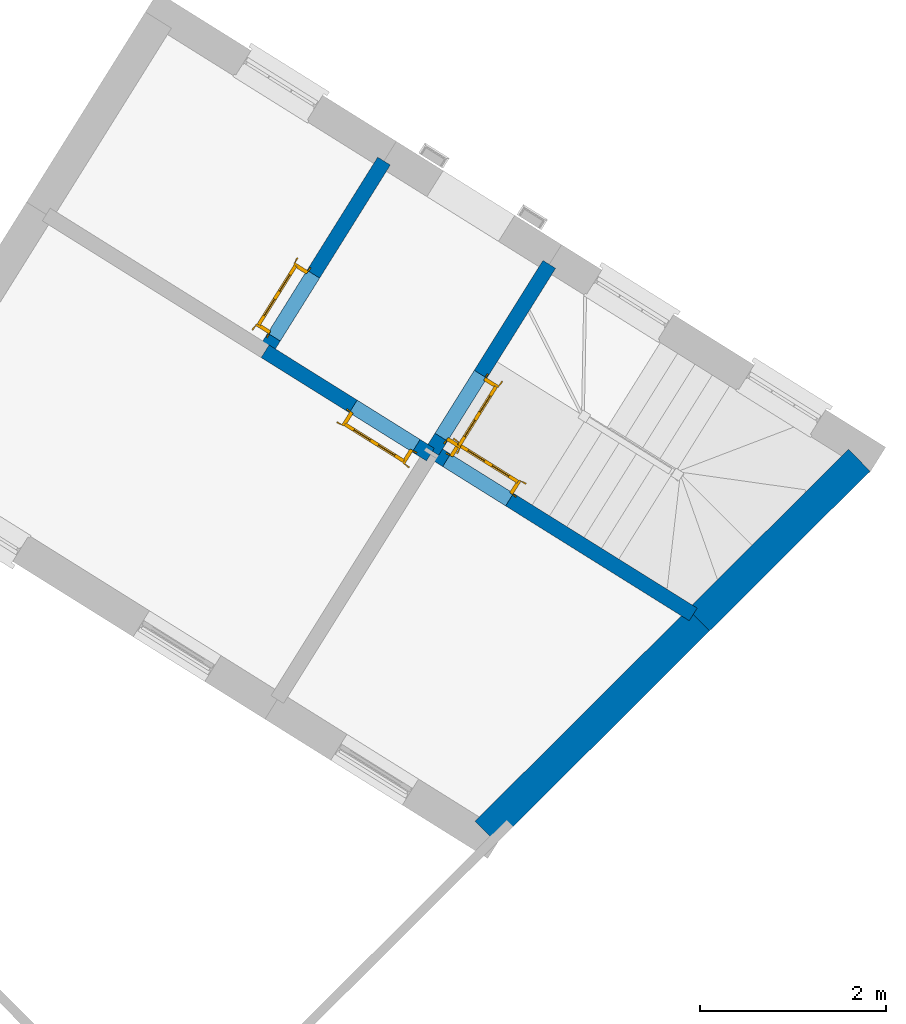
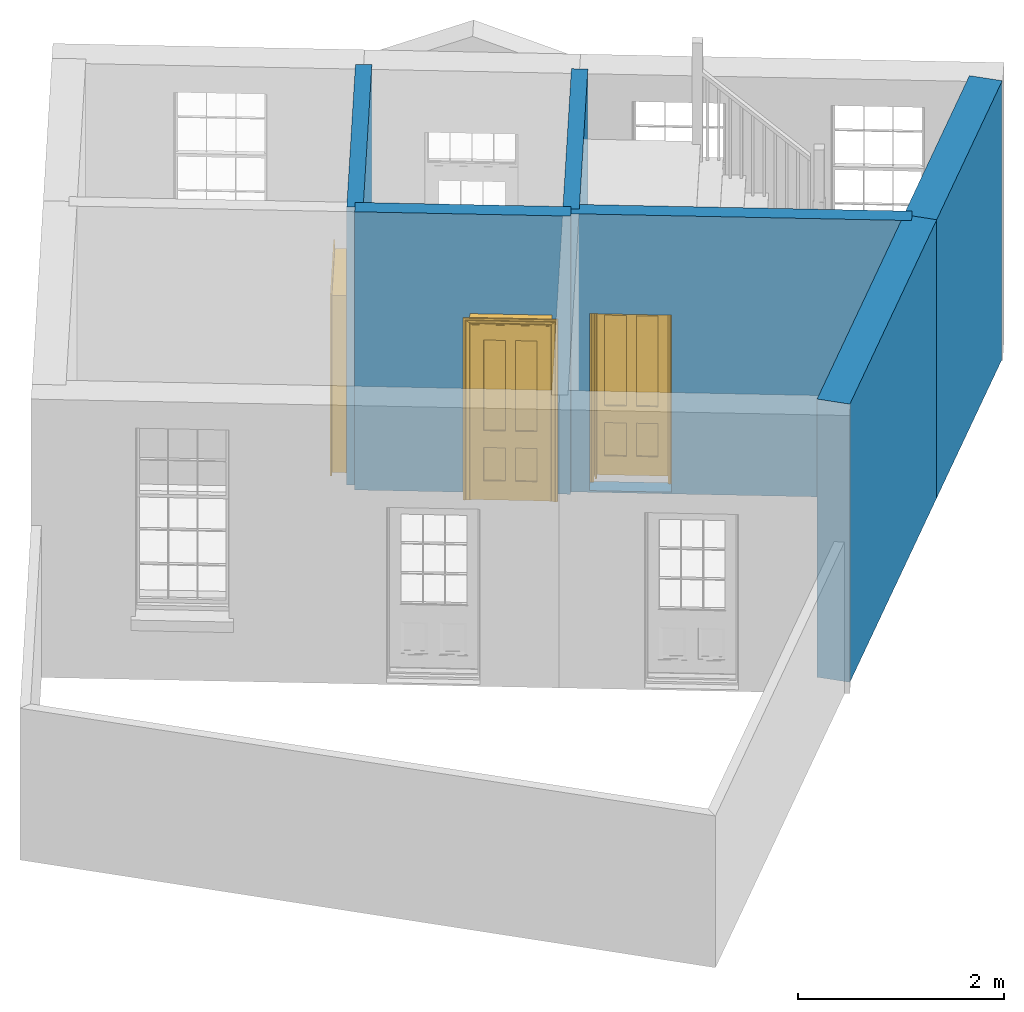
# One storey, part 3 of 5: 6 walls, 4 doors, 4 openings.
"""IFC4 building model written with IfcOpenShell, lengths in metres."""

import ifcopenshell
import ifcopenshell.guid

model = None  # the IFC model being written
_history = None  # IfcOwnerHistory: only IFC2X3 demands one
_inside = {}  # id of a spatial element -> (the spatial element, [elements in it])
_under = {}  # id of a project, library or spatial element -> (it, [spatial elements below it])
_declared = {}  # id of a project -> (the project, [libraries it declares])
_typed = {}  # id of a type object -> (the type object, [elements of that type])
_made_of = {}  # id of a material, layer set ... -> (it, [elements and type objects made of it])


def new_model(schema):
    """Start an empty IFC model of exactly this schema.

    Asked for "IFC4X3", IfcOpenShell would pick the latest addendum, in which some entities
    have other attributes; the version numbers below select the first issue.
    IFC2X3 requires an IfcOwnerHistory on every rooted entity: one is made here for all.
    """
    global model, _history
    if schema == "IFC4X3":
        model = ifcopenshell.file(schema_version=(4, 3, 0, 0))
    else:
        model = ifcopenshell.file(schema=schema)
    _inside.clear()
    _under.clear()
    _declared.clear()
    _typed.clear()
    _made_of.clear()
    _history = None
    if model.schema == "IFC2X3":
        org = make("IfcOrganization", Name="unknown")
        user = make(
            "IfcPersonAndOrganization",
            ThePerson=make("IfcPerson", FamilyName="unknown"),
            TheOrganization=org,
        )
        app = make(
            "IfcApplication",
            ApplicationDeveloper=org,
            Version="unknown",
            ApplicationFullName="unknown",
            ApplicationIdentifier="unknown",
        )
        _history = make(
            "IfcOwnerHistory",
            OwningUser=user,
            OwningApplication=app,
            ChangeAction="ADDED",
            CreationDate=0,
        )
    return model


def make(cls, **values):
    """One entity of the class cls with the attributes given. An attribute that is None is left unset."""
    return model.create_entity(
        cls, **{name: value for name, value in values.items() if value is not None}
    )


def rooted(cls, **values):
    """An entity with a GlobalId (a new one), such as an element, a storey or a relation."""
    return make(cls, GlobalId=ifcopenshell.guid.new(), OwnerHistory=_history, **values)


def si_unit(unit_type, name, prefix=None):
    """IfcSIUnit, for example si_unit("LENGTHUNIT", "METRE", prefix="MILLI")."""
    return make("IfcSIUnit", UnitType=unit_type, Prefix=prefix, Name=name)


def assignment(units):
    """IfcUnitAssignment: the units of a project."""
    return None if units is None else make("IfcUnitAssignment", Units=units)


def point(xyz):
    """IfcCartesianPoint."""
    return None if xyz is None else make("IfcCartesianPoint", Coordinates=xyz)


def direction(xyz):
    """IfcDirection."""
    return None if xyz is None else make("IfcDirection", DirectionRatios=xyz)


def frame(location, z_axis=None, x_axis=None):
    """IfcAxis2Placement3D, a coordinate frame: its origin and axes. An axis left out is left unset."""
    return make(
        "IfcAxis2Placement3D",
        Location=point(location),
        Axis=direction(z_axis),
        RefDirection=direction(x_axis),
    )


def origin():
    """The frame at (0, 0, 0) with its axes left unset."""
    return frame((0.0, 0.0, 0.0))


def origin_with_axes():
    """The frame at (0, 0, 0) with the z axis (0, 0, 1) and the x axis (1, 0, 0) written out."""
    return frame((0.0, 0.0, 0.0), z_axis=(0.0, 0.0, 1.0), x_axis=(1.0, 0.0, 0.0))


def place(relative_to, where):
    """IfcLocalPlacement: puts the frame where relative to a parent placement (None: the world)."""
    return make(
        "IfcLocalPlacement", PlacementRelTo=relative_to, RelativePlacement=where
    )


def context(
    kind, dimensions, precision=None, world=None, true_north=None, identifier=None
):
    """IfcGeometricRepresentationContext, for example the 3D "Model" context."""
    return make(
        "IfcGeometricRepresentationContext",
        ContextIdentifier=identifier,
        ContextType=kind,
        CoordinateSpaceDimension=dimensions,
        Precision=precision,
        WorldCoordinateSystem=world,
        TrueNorth=true_north,
    )


def subcontext(parent, identifier, kind, view, scale=None):
    """IfcGeometricRepresentationSubContext, for example "Body" below "Model"."""
    return make(
        "IfcGeometricRepresentationSubContext",
        ContextIdentifier=identifier,
        ContextType=kind,
        ParentContext=parent,
        TargetScale=scale,
        TargetView=view,
    )


def project(units=None, contexts=None):
    """IfcProject with its units and contexts."""
    return rooted(
        "IfcProject",
        Name="project",
        RepresentationContexts=contexts,
        UnitsInContext=assignment(units),
    )


def spatial(cls, under=None, at=None, **own):
    """A site, building, storey or space (cls), placed at a placement, below another one or the project."""
    s = rooted(cls, ObjectPlacement=at, **own)
    if under is not None:
        _under.setdefault(under.id(), (under, []))[1].append(s)
    return s


def polyline(points):
    """IfcPolyline through the points."""
    return make("IfcPolyline", Points=[point(p) for p in points])


def outline(outer, holes=None, kind="AREA"):
    """IfcArbitraryClosedProfileDef: a profile drawn as a closed curve; with holes, ...WithVoids."""
    if holes is None:
        return make("IfcArbitraryClosedProfileDef", ProfileType=kind, OuterCurve=outer)
    return make(
        "IfcArbitraryProfileDefWithVoids",
        ProfileType=kind,
        OuterCurve=outer,
        InnerCurves=holes,
    )


def extrude(swept, where, along, depth):
    """IfcExtrudedAreaSolid: the profile swept, set in the frame where, extruded along a direction by depth."""
    return make(
        "IfcExtrudedAreaSolid",
        SweptArea=swept,
        Position=where,
        ExtrudedDirection=direction(along),
        Depth=depth,
    )


def faces_of(points, faces, orient=None, outer=None):
    """IfcFace entities. A face is a list of loops; a loop is a list of indices into points, from 0.

    orient and outer hold one flag for each loop. By default every Orientation is true, the
    first loop of a face is its IfcFaceOuterBound and the others are IfcFaceBound.
    """
    made = []
    for i, loops in enumerate(faces):
        bounds = []
        for j, loop in enumerate(loops):
            is_outer = j == 0 if outer is None else outer[i][j]
            bounds.append(
                make(
                    "IfcFaceOuterBound" if is_outer else "IfcFaceBound",
                    Bound=make("IfcPolyLoop", Polygon=[points[k] for k in loop]),
                    Orientation=True if orient is None else orient[i][j],
                )
            )
        made.append(make("IfcFace", Bounds=bounds))
    return made


def faceted_brep(points, faces, orient=None, outer=None, voids=None):
    """IfcFacetedBrep: a solid bounded by flat faces; with voids (closed shells), ...WithVoids."""
    shared = [point(p) for p in points]
    hull = make("IfcClosedShell", CfsFaces=faces_of(shared, faces, orient, outer))
    if voids is None:
        return make("IfcFacetedBrep", Outer=hull)
    return make(
        "IfcFacetedBrepWithVoids",
        Outer=hull,
        Voids=[
            make(cls, CfsFaces=faces_of(shared, fs, o, b)) for cls, fs, o, b in voids
        ],
    )


def shape(context_of_items, identifier, shape_type, items):
    """IfcShapeRepresentation: the items that make up one representation, for example the "Body"."""
    return make(
        "IfcShapeRepresentation",
        ContextOfItems=context_of_items,
        RepresentationIdentifier=identifier,
        RepresentationType=shape_type,
        Items=items,
    )


def source(mapping_origin, context_of_items, identifier, shape_type, items):
    """IfcRepresentationMap: a shape defined once, which mapped items show again and again."""
    return make(
        "IfcRepresentationMap",
        MappingOrigin=mapping_origin,
        MappedRepresentation=shape(context_of_items, identifier, shape_type, items),
    )


def transform(
    local_origin,
    x_axis=None,
    y_axis=None,
    z_axis=None,
    scale=None,
    scale2=None,
    scale3=None,
    uniform=True,
):
    """IfcCartesianTransformationOperator3D, or its non-uniform kind. x_axis, y_axis, z_axis: its Axis1, 2, 3."""
    if uniform:
        return make(
            "IfcCartesianTransformationOperator3D",
            Axis1=direction(x_axis),
            Axis2=direction(y_axis),
            LocalOrigin=point(local_origin),
            Scale=scale,
            Axis3=direction(z_axis),
        )
    return make(
        "IfcCartesianTransformationOperator3DnonUniform",
        Axis1=direction(x_axis),
        Axis2=direction(y_axis),
        LocalOrigin=point(local_origin),
        Scale=scale,
        Axis3=direction(z_axis),
        Scale2=scale2,
        Scale3=scale3,
    )


def mapped(mapping_source, mapping_target):
    """IfcMappedItem: shows the shape of a source again, moved by a transform."""
    return make(
        "IfcMappedItem", MappingSource=mapping_source, MappingTarget=mapping_target
    )


def material(Name=None, Category=None):
    """IfcMaterial."""
    return make("IfcMaterial", Name=Name, Category=Category)


def layer(
    of_material, thickness, ventilated=None, Name=None, Category=None, Priority=None
):
    """IfcMaterialLayer: one layer of a wall or slab, of a material (None: an air gap)."""
    return make(
        "IfcMaterialLayer",
        Material=of_material,
        LayerThickness=thickness,
        IsVentilated=ventilated,
        Name=Name,
        Category=Category,
        Priority=Priority,
    )


def layer_set(layers, Name=None):
    """IfcMaterialLayerSet."""
    return make("IfcMaterialLayerSet", MaterialLayers=layers, LayerSetName=Name)


def layer_usage(for_layer_set, set_direction, sense, offset, extent=None):
    """IfcMaterialLayerSetUsage: how a layer set lies in its element."""
    return make(
        "IfcMaterialLayerSetUsage",
        ForLayerSet=for_layer_set,
        LayerSetDirection=set_direction,
        DirectionSense=sense,
        OffsetFromReferenceLine=offset,
        ReferenceExtent=extent,
    )


def made_of(thing, what):
    """Note that an element or type object is made of a material, layer set ...; save() writes the relation."""
    if what is not None:
        _made_of.setdefault(what.id(), (what, []))[1].append(thing)
    return thing


def type_object(cls, material=None, **own):
    """A type object (cls), such as IfcWallType, which elements share."""
    return made_of(rooted(cls, **own), material)


def type_shapes(of_type, sources):
    """Give a type object the sources (RepresentationMaps) that its elements show as mapped items."""
    of_type.RepresentationMaps = sources


def element(
    cls,
    number,
    at=None,
    inside=None,
    cuts=None,
    type_object=None,
    material=None,
    context=None,
    identifier="Body",
    shape_type=None,
    held_by="IfcProductDefinitionShape",
    body=None,
    shapes=None,
    **own,
):
    """One element of the class cls, such as IfcWall. Its Tag is "e" and its number.

    at: its placement. inside: the storey or other place that contains it. cuts: it is an
    opening in that element (IfcRelVoidsElement). A single representation is given by context,
    identifier, shape_type and body (its items); several are given by shapes. held_by: the class
    of the entity that holds the representations. save() writes the other relations.
    """
    e = rooted(cls, Tag="e%d" % number, ObjectPlacement=at, **own)
    if body is not None:
        shapes = [shape(context, identifier, shape_type, body)]
    if shapes is not None:
        e.Representation = make(held_by, Representations=shapes)
    if inside is not None:
        _inside.setdefault(inside.id(), (inside, []))[1].append(e)
    if cuts is not None:
        rooted(
            "IfcRelVoidsElement", RelatingBuildingElement=cuts, RelatedOpeningElement=e
        )
    if type_object is not None:
        _typed.setdefault(type_object.id(), (type_object, []))[1].append(e)
    return made_of(e, material)


def fill(opening, filler):
    """IfcRelFillsElement: the door or window that sits in an opening."""
    return rooted(
        "IfcRelFillsElement",
        RelatingOpeningElement=opening,
        RelatedBuildingElement=filler,
    )


def aggregate(whole, parts):
    """IfcRelAggregates: a whole, such as a stair, and the parts it consists of."""
    return rooted("IfcRelAggregates", RelatingObject=whole, RelatedObjects=parts)


def save(model, path):
    """Write the relations noted so far, then the file.

    IfcRelAggregates (storeys below a building ...), IfcRelContainedInSpatialStructure (elements
    in a storey), IfcRelDefinesByType, IfcRelAssociatesMaterial and IfcRelDeclares: one each for
    every whole, place, type object, material and project.
    """
    for whole, parts in _under.values():
        aggregate(whole, parts)
    for where, things in _inside.values():
        rooted(
            "IfcRelContainedInSpatialStructure",
            RelatedElements=things,
            RelatingStructure=where,
        )
    for kind, things in _typed.values():
        rooted("IfcRelDefinesByType", RelatedObjects=things, RelatingType=kind)
    for what, things in _made_of.values():
        rooted("IfcRelAssociatesMaterial", RelatedObjects=things, RelatingMaterial=what)
    for by, libraries in _declared.values():
        rooted("IfcRelDeclares", RelatingContext=by, RelatedDefinitions=libraries)
    model.write(path)


model = new_model("IFC4")

# Units and contexts
model_context = context("Model", 3, world=origin_with_axes())
body_context = subcontext(model_context, "Body", "Model", "MODEL_VIEW")
ifc_project = project(units=[si_unit("PLANEANGLEUNIT", "RADIAN"), si_unit("MASSUNIT", "GRAM", prefix="KILO"), si_unit("FORCEUNIT", "NEWTON", prefix="KILO"), si_unit("LENGTHUNIT", "METRE"), si_unit("AREAUNIT", "SQUARE_METRE"), si_unit("VOLUMEUNIT", "CUBIC_METRE")], contexts=[model_context, model_context])

# Sites, building, storey
site_1_placement = place(None, origin_with_axes())
site_1 = spatial("IfcSite", under=ifc_project, at=site_1_placement, Name="Tamar")
site_2_placement = place(site_1_placement, origin_with_axes())
site_2 = spatial("IfcSite", under=site_1, at=site_2_placement, Name="Site plot-4", CompositionType="ELEMENT")
building_placement = place(None, origin_with_axes())
building = spatial("IfcBuilding", under=site_2, at=building_placement, Name="Building plot-4", CompositionType="ELEMENT")
storey_placement = place(None, frame((0.0, 0.0, 24.5), z_axis=(0.0, 0.0, 1.0), x_axis=(1.0, 0.0, 0.0)))
storey = spatial("IfcBuildingStorey", under=building, at=storey_placement, Name="plot-4 0", CompositionType="ELEMENT", Elevation=24.5)

# Walls
ifc_material_1 = material(Name="Masonry")
ifc_layer_1 = layer(ifc_material_1, 0.33, ventilated=False)
ifc_layer_set_1 = layer_set([ifc_layer_1], Name="party_0.08_0.25")
ifc_layer_usage_1 = layer_usage(ifc_layer_set_1, "AXIS2", "POSITIVE", -0.25)
wall_type_1 = type_object("IfcWallType", Name="party_0.08_0.25", PredefinedType="SOLIDWALL", material=ifc_layer_set_1)
wall_1_placement = place(storey_placement, frame((224.156556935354, 277.526223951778, 0.0), z_axis=(0.0, 0.0, 1.0), x_axis=(0.708567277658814, 0.705643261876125, 0.0)))
element("IfcWall", 1, at=wall_1_placement, inside=storey, type_object=wall_type_1, material=ifc_layer_usage_1, Name="party", context=body_context, shape_type="SweptSolid", body=[
    extrude(outline(polyline([(1.32209934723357e-14, 0.0800000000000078), (-1.09491493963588e-15, -0.250000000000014), (3.23643631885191, -0.250000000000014), (3.23643631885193, 0.0800000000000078), (1.32209934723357e-14, 0.0800000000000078)])), origin_with_axes(), (0.0, 0.0, 1.0), 3.3),
])
wall_2_placement = place(storey_placement, frame((226.449789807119, 279.809993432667, 0.0), z_axis=(0.0, 0.0, 1.0), x_axis=(0.708567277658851, 0.705643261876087, 0.0)))
element("IfcWall", 2, at=wall_2_placement, inside=storey, type_object=wall_type_1, material=ifc_layer_usage_1, Name="party", context=body_context, shape_type="SweptSolid", body=[
    extrude(outline(polyline([(9.02879133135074e-15, 0.0800000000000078), (1.19502055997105e-14, -0.250000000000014), (2.4394855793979, -0.249999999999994), (2.43948557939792, 0.0800000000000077), (9.02879133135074e-15, 0.0800000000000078)])), origin_with_axes(), (0.0, 0.0, 1.0), 3.3),
])

# Wall, opening, door
ifc_material_2 = material(Name="Masonry")
ifc_layer_2 = layer(ifc_material_2, 0.16, ventilated=False)
ifc_layer_set_2 = layer_set([ifc_layer_2], Name="interior_0.08_0.08")
ifc_layer_usage_2 = layer_usage(ifc_layer_set_2, "AXIS2", "POSITIVE", -0.08)
wall_type_2 = type_object("IfcWallType", Name="interior_0.08_0.08", PredefinedType="SOLIDWALL", material=ifc_layer_set_2)
wall_3_placement = place(storey_placement, frame((224.898872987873, 283.58120855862, 0.0), z_axis=(0.0, 0.0, 1.0), x_axis=(-0.530026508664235, -0.847981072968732, 0.0)))
wall_3 = element("IfcWall", 3, at=wall_3_placement, inside=storey, type_object=wall_type_2, material=ifc_layer_usage_2, Name="interior", context=body_context, shape_type="SweptSolid", body=[
    extrude(outline(polyline([(-3.04969791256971e-14, 0.0799999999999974), (3.04871819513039e-14, -0.0799999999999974), (2.3758920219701, -0.0799999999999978), (2.37589202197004, 0.0799999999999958), (-3.04969791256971e-14, 0.0799999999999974)])), origin_with_axes(), (0.0, 0.0, 1.0), 3.3),
])
opening_1_placement = place(wall_3_placement, frame((1.3958920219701, 0.0, 0.0199999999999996)))
opening_1 = element("IfcOpeningElement", 4, at=opening_1_placement, cuts=wall_3, Name="My Opening", ObjectType="Opening", context=body_context, shape_type="SweptSolid", body=[
    extrude(outline(polyline([(0.0, -0.0999999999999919), (0.799999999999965, -0.0999999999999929), (0.799999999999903, 1.09999999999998), (-6.26165785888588e-14, 1.09999999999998), (0.0, -0.0999999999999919)])), origin_with_axes(), (0.0, 0.0, 1.0), 2.1),
])
door_type = type_object("IfcDoorType", Name="door_inside", OperationType="SINGLE_SWING_LEFT", PredefinedType="NOTDEFINED")
shared_shape = source(origin(), body_context, "Body", "Brep", [
    faceted_brep([(0.773, 0.33, 1.895), (0.66, 0.33, 1.895), (0.66, 0.33, 2.073), (0.773, 0.33, 2.073), (0.773, 0.33, 0.82), (0.66, 0.33, 0.82), (0.45, 0.33, 1.895), (0.45, 0.33, 2.073), (0.773, 0.33, 0.62), (0.66, 0.33, 0.62), (0.66, 0.315, 0.82), (0.66, 0.315, 1.895), (0.45, 0.315, 1.895), (0.35, 0.33, 1.895), (0.35, 0.33, 2.073), (0.773, 0.33, 0.225), (0.66, 0.33, 0.225), (0.45, 0.33, 0.62), (0.45, 0.33, 0.82), (0.45, 0.315, 0.82), (0.35, 0.33, 0.82), (0.14, 0.33, 2.073), (0.14, 0.33, 1.895), (0.773, 0.33, 0.0), (0.66, 0.33, 0.0), (0.66, 0.315, 0.225), (0.66, 0.315, 0.62), (0.45, 0.315, 0.62), (0.35, 0.33, 0.62), (0.35, 0.315, 0.82), (0.35, 0.315, 1.895), (0.14, 0.315, 1.895), (0.027, 0.33, 2.073), (0.027, 0.33, 1.895), (0.773, 0.292, 0.0), (0.66, 0.292, 0.0), (0.45, 0.33, 0.0), (0.45, 0.33, 0.225), (0.45, 0.315, 0.225), (0.35, 0.33, 0.225), (0.14, 0.33, 0.82), (0.14, 0.33, 0.62), (0.14, 0.315, 0.82), (0.027, 0.33, 0.82), (0.773, 0.292, 0.225), (0.66, 0.292, 0.225), (0.45, 0.292, 0.0), (0.35, 0.33, 0.0), (0.35, 0.315, 0.225), (0.35, 0.315, 0.62), (0.14, 0.315, 0.62), (0.027, 0.33, 0.62), (0.773, 0.292, 0.62), (0.66, 0.292, 0.62), (0.45, 0.292, 0.225), (0.35, 0.292, 0.0), (0.14, 0.33, 0.225), (0.14, 0.33, 0.0), (0.14, 0.315, 0.225), (0.027, 0.33, 0.225), (0.773, 0.292, 0.82), (0.66, 0.292, 0.82), (0.66, 0.307, 0.62), (0.66, 0.307, 0.225), (0.45, 0.307, 0.225), (0.35, 0.292, 0.225), (0.14, 0.292, 0.0), (0.027, 0.33, 0.0), (0.773, 0.292, 1.895), (0.66, 0.292, 1.895), (0.45, 0.292, 0.62), (0.45, 0.292, 0.82), (0.45, 0.307, 0.62), (0.35, 0.292, 0.62), (0.14, 0.292, 0.225), (0.027, 0.292, 0.0), (0.773, 0.292, 2.073), (0.66, 0.292, 2.073), (0.66, 0.307, 1.895), (0.66, 0.307, 0.82), (0.45, 0.307, 0.82), (0.35, 0.292, 0.82), (0.35, 0.307, 0.62), (0.35, 0.307, 0.225), (0.14, 0.307, 0.225), (0.027, 0.292, 0.225), (0.45, 0.292, 1.895), (0.45, 0.292, 2.073), (0.45, 0.307, 1.895), (0.35, 0.292, 1.895), (0.14, 0.292, 0.82), (0.14, 0.292, 0.62), (0.14, 0.307, 0.62), (0.027, 0.292, 0.62), (0.35, 0.292, 2.073), (0.35, 0.307, 1.895), (0.35, 0.307, 0.82), (0.14, 0.307, 0.82), (0.027, 0.292, 0.82), (0.14, 0.292, 2.073), (0.14, 0.292, 1.895), (0.14, 0.307, 1.895), (0.027, 0.292, 1.895), (0.027, 0.292, 2.073), (0.02, 0.335, 0.0), (0.005, 0.34, 0.0), (0.005, 0.34, 2.095), (0.02, 0.335, 2.08), (0.02, 0.33, 0.0), (0.0, 0.335, 0.0), (0.0, 0.335, 2.1), (0.795, 0.34, 2.095), (0.78, 0.335, 2.08), (0.02, 0.33, 2.08), (0.0, 0.33, 0.0), (-0.032, 0.345, 0.0), (-0.032, 0.345, 2.132), (0.8, 0.335, 2.1), (0.795, 0.34, 0.0), (0.78, 0.335, 0.0), (0.78, 0.33, 2.08), (0.04, 0.29, 0.0), (0.025, 0.29, 0.0), (0.025, 0.29, 2.075), (0.04, 0.29, 2.06), (-0.04, 0.34, 0.0), (-0.04, 0.34, 2.14), (0.832, 0.345, 2.132), (0.8, 0.335, 0.0), (0.78, 0.33, 0.0), (0.8, 0.33, 0.0), (0.86, 0.33, 0.0), (0.86, 0.33, 2.16), (0.8, 0.33, 2.1), (-0.06, 0.33, 2.16), (0.0, 0.33, 2.1), (-0.06, 0.33, 0.0), (-0.04, 0.345, 0.0), (-0.04, 0.345, 2.14), (0.84, 0.34, 2.14), (0.832, 0.345, 0.0), (0.84, 0.34, 0.0), (0.86, 0.345, 0.0), (0.86, 0.345, 2.16), (-0.06, 0.345, 2.16), (-0.06, 0.345, 0.0), (0.84, 0.345, 0.0), (0.84, 0.345, 2.14), (-0.025, 0.155, 0.0), (-0.025, 0.16, 0.0), (-0.025, 0.16, 2.125), (-0.025, 0.155, 2.125), (-0.017, 0.155, 0.0), (-0.017, 0.155, 2.117), (0.825, 0.16, 2.125), (0.825, 0.155, 2.125), (0.825, 0.155, 0.0), (0.845, 0.155, 0.0), (-0.045, 0.155, 2.145), (-0.045, 0.155, 0.0), (0.845, 0.155, 2.145), (0.015, 0.165, 0.0), (0.015, 0.165, 2.085), (0.817, 0.155, 2.117), (0.825, 0.16, 0.0), (0.845, 0.17, 0.0), (0.845, 0.17, 2.145), (-0.045, 0.17, 2.145), (-0.045, 0.17, 0.0), (0.02, 0.16, 0.0), (0.02, 0.16, 2.08), (0.785, 0.165, 2.085), (0.817, 0.155, 0.0), (0.8, 0.17, 0.0), (0.8, 0.17, 2.1), (0.0, 0.17, 2.1), (0.0, 0.17, 0.0), (0.035, 0.165, 0.0), (0.035, 0.165, 2.065), (0.78, 0.16, 2.08), (0.785, 0.165, 0.0), (0.775, 0.29, 2.075), (0.76, 0.29, 2.06), (0.035, 0.17, 2.065), (0.035, 0.17, 0.0), (0.765, 0.165, 2.065), (0.78, 0.16, 0.0), (0.765, 0.17, 0.0), (0.765, 0.17, 2.065), (0.765, 0.165, 0.0), (0.04, 0.17, 2.06), (0.04, 0.17, 0.0), (0.76, 0.17, 2.06), (0.76, 0.17, 0.0), (0.76, 0.29, 0.0), (0.775, 0.29, 0.0), (0.025, 0.33, 0.0), (0.025, 0.33, 2.075), (0.775, 0.33, 0.0), (0.775, 0.33, 2.075)], [[[0, 1, 2, 3]], [[1, 0, 4, 5]], [[1, 6, 7, 2]], [[8, 9, 5, 4]], [[1, 5, 10, 11]], [[6, 1, 11, 12]], [[6, 13, 14, 7]], [[15, 16, 9, 8]], [[9, 17, 18, 5]], [[5, 18, 19, 10]], [[10, 19, 12, 11]], [[18, 6, 12, 19]], [[18, 20, 13, 6]], [[21, 14, 13, 22]], [[23, 24, 16, 15]], [[9, 16, 25, 26]], [[17, 9, 26, 27]], [[17, 28, 20, 18]], [[13, 20, 29, 30]], [[22, 13, 30, 31]], [[32, 21, 22, 33]], [[34, 35, 24, 23]], [[24, 36, 37, 16]], [[16, 37, 38, 25]], [[25, 38, 27, 26]], [[37, 17, 27, 38]], [[37, 39, 28, 17]], [[40, 20, 28, 41]], [[20, 40, 42, 29]], [[31, 30, 29, 42]], [[40, 22, 31, 42]], [[33, 22, 40, 43]], [[35, 34, 44, 45]], [[35, 46, 36, 24]], [[36, 47, 39, 37]], [[28, 39, 48, 49]], [[41, 28, 49, 50]], [[43, 40, 41, 51]], [[45, 44, 52, 53]], [[46, 35, 45, 54]], [[46, 55, 47, 36]], [[56, 39, 47, 57]], [[39, 56, 58, 48]], [[50, 49, 48, 58]], [[56, 41, 50, 58]], [[51, 41, 56, 59]], [[53, 52, 60, 61]], [[45, 53, 62, 63]], [[54, 45, 63, 64]], [[55, 46, 54, 65]], [[55, 66, 57, 47]], [[59, 56, 57, 67]], [[61, 60, 68, 69]], [[70, 53, 61, 71]], [[53, 70, 72, 62]], [[72, 64, 63, 62]], [[70, 54, 64, 72]], [[65, 54, 70, 73]], [[65, 74, 66, 55]], [[67, 57, 66, 75]], [[69, 68, 76, 77]], [[61, 69, 78, 79]], [[71, 61, 79, 80]], [[73, 70, 71, 81]], [[65, 73, 82, 83]], [[74, 65, 83, 84]], [[74, 85, 75, 66]], [[86, 69, 77, 87]], [[69, 86, 88, 78]], [[88, 80, 79, 78]], [[86, 71, 80, 88]], [[81, 71, 86, 89]], [[73, 81, 90, 91]], [[73, 91, 92, 82]], [[83, 82, 92, 84]], [[91, 74, 84, 92]], [[91, 93, 85, 74]], [[89, 86, 87, 94]], [[81, 89, 95, 96]], [[90, 81, 96, 97]], [[90, 98, 93, 91]], [[94, 99, 100, 89]], [[89, 100, 101, 95]], [[101, 97, 96, 95]], [[100, 90, 97, 101]], [[100, 102, 98, 90]], [[99, 103, 102, 100]], [[32, 103, 99, 21]], [[102, 103, 32, 33]], [[98, 102, 33, 43]], [[21, 99, 94, 14]], [[94, 87, 7, 14]], [[7, 87, 77, 2]], [[76, 3, 2, 77]], [[43, 51, 93, 98]], [[51, 59, 85, 93]], [[67, 75, 85, 59]], [[34, 23, 15, 44]], [[44, 15, 8, 52]], [[52, 8, 4, 60]], [[0, 68, 60, 4]], [[0, 3, 76, 68]], [[104, 105, 106, 107]], [[104, 108, 109, 105]], [[105, 109, 110, 106]], [[107, 106, 111, 112]], [[107, 113, 108, 104]], [[114, 109, 108]], [[109, 115, 116, 110]], [[106, 110, 117, 111]], [[112, 111, 118, 119]], [[113, 107, 112, 120]], [[121, 122, 123, 124]], [[115, 109, 114, 125]], [[115, 125, 126, 116]], [[110, 116, 127, 117]], [[111, 117, 128, 118]], [[118, 128, 129, 119]], [[120, 112, 119, 129]], [[130, 129, 128]], [[130, 131, 132, 133]], [[133, 132, 134, 135]], [[135, 134, 136, 114]], [[136, 125, 114]], [[125, 137, 138, 126]], [[116, 126, 139, 127]], [[117, 127, 140, 128]], [[141, 130, 128, 140]], [[131, 130, 141]], [[131, 142, 143, 132]], [[132, 143, 144, 134]], [[134, 144, 145, 136]], [[137, 125, 136, 145]], [[143, 142, 146]], [[143, 146, 147]], [[137, 145, 144]], [[143, 147, 138]], [[138, 137, 144]], [[143, 138, 144]], [[126, 138, 147, 139]], [[127, 139, 141, 140]], [[142, 131, 141, 146]], [[139, 147, 146, 141]], [[148, 149, 150, 151]], [[149, 152, 153, 150]], [[151, 150, 154, 155]], [[155, 156, 157]], [[158, 159, 148]], [[158, 148, 151]], [[155, 157, 160]], [[158, 151, 155]], [[155, 160, 158]], [[152, 161, 162, 153]], [[150, 153, 163, 154]], [[155, 154, 164, 156]], [[156, 164, 165, 157]], [[157, 165, 166, 160]], [[160, 166, 167, 158]], [[158, 167, 168, 159]], [[161, 169, 170, 162]], [[153, 162, 171, 163]], [[154, 163, 172, 164]], [[165, 164, 173]], [[165, 173, 174, 166]], [[166, 174, 175, 167]], [[167, 175, 176, 168]], [[169, 177, 178, 170]], [[162, 170, 179, 171]], [[163, 171, 180, 172]], [[172, 180, 173, 164]], [[124, 123, 181, 182]], [[183, 178, 177, 184]], [[170, 178, 185, 179]], [[171, 179, 186, 180]], [[187, 173, 180]], [[185, 188, 187, 189]], [[188, 185, 178, 183]], [[179, 185, 189, 186]], [[189, 187, 180, 186]], [[190, 183, 184, 191]], [[192, 188, 183, 190]], [[191, 184, 122, 121]], [[124, 190, 191, 121]], [[193, 187, 188, 192]], [[182, 192, 190, 124]], [[184, 176, 122]], [[194, 195, 187, 193]], [[192, 182, 194, 193]], [[161, 176, 184]], [[114, 108, 122, 176]], [[173, 187, 195]], [[152, 149, 176, 161]], [[169, 161, 184, 177]], [[196, 122, 108]], [[176, 175, 135, 114]], [[173, 195, 129, 130]], [[176, 149, 168]], [[123, 122, 196, 197]], [[196, 108, 113, 197]], [[175, 174, 133, 135]], [[198, 129, 195]], [[133, 174, 173, 130]], [[159, 168, 149, 148]], [[181, 123, 197, 199]], [[197, 113, 120, 199]], [[199, 120, 129, 198]], [[195, 181, 199, 198]], [[195, 194, 182, 181]]]),
])
type_shapes(door_type, [shared_shape])
door_1_placement = place(storey_placement, frame((224.074215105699, 282.450521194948, 0.0199999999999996), z_axis=(0.0, 0.0, 1.0), x_axis=(-0.424021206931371, -0.678384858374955, 0.0)))
door_1 = element("IfcDoor", 5, at=door_1_placement, inside=storey, type_object=door_type, Name="circulation inside door", OverallHeight=2.1, OverallWidth=0.8, context=body_context, shape_type="MappedRepresentation", body=[
    mapped(shared_shape, transform((0.0, 0.0, 0.0), scale=1.0)),
])
fill(opening_1, door_1)

wall_4_placement = place(storey_placement, frame((223.639587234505, 281.566497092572, 0.0), z_axis=(0.0, 0.0, 1.0), x_axis=(0.847981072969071, -0.530026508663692, 0.0)))
wall_4 = element("IfcWall", 6, at=wall_4_placement, inside=storey, type_object=wall_type_2, material=ifc_layer_usage_2, Name="interior", context=body_context, shape_type="SweptSolid", body=[
    extrude(outline(polyline([(-3.37017940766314e-15, 0.0799999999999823), (3.32485509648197e-15, -0.0799999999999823), (3.3139920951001, -0.0799999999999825), (3.3139920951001, 0.0799999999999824), (-3.37017940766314e-15, 0.0799999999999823)])), origin_with_axes(), (0.0, 0.0, 1.0), 3.3),
])
opening_2_placement = place(wall_4_placement, frame((0.180000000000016, 0.0, 0.0199999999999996)))
opening_2 = element("IfcOpeningElement", 7, at=opening_2_placement, cuts=wall_4, Name="My Opening", ObjectType="Opening", context=body_context, shape_type="SweptSolid", body=[
    extrude(outline(polyline([(0.0, -0.100000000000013), (0.79999999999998, -0.100000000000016), (0.799999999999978, 1.10000000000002), (-2.08166817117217e-15, 1.10000000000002), (0.0, -0.100000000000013)])), origin_with_axes(), (0.0, 0.0, 1.0), 2.1),
])
door_2_placement = place(storey_placement, frame((223.739221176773, 281.386294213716, 0.0199999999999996), z_axis=(0.0, 0.0, 1.0), x_axis=(0.678384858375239, -0.424021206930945, 0.0)))
door_2 = element("IfcDoor", 8, at=door_2_placement, inside=storey, type_object=door_type, Name="bedroom inside door", OverallHeight=2.1, OverallWidth=0.8, context=body_context, shape_type="MappedRepresentation", body=[
    mapped(shared_shape, transform((0.0, 0.0, 0.0), scale=1.0)),
])
fill(opening_2, door_2)

wall_5_placement = place(storey_placement, frame((223.617984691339, 281.531935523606, 0.0), z_axis=(0.0, 0.0, 1.0), x_axis=(-0.847981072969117, 0.530026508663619, 0.0)))
wall_5 = element("IfcWall", 9, at=wall_5_placement, inside=storey, type_object=wall_type_2, material=ifc_layer_usage_2, Name="interior", context=body_context, shape_type="SweptSolid", body=[
    extrude(outline(polyline([(3.48655799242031e-15, 0.0799999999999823), (-3.45899724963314e-15, -0.0799999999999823), (2.09988982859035, -0.0799999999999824), (2.09988982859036, 0.0799999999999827), (3.48655799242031e-15, 0.0799999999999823)])), origin_with_axes(), (0.0, 0.0, 1.0), 3.3),
])
opening_3_placement = place(wall_5_placement, frame((0.180000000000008, 0.0, 0.0199999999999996)))
opening_3 = element("IfcOpeningElement", 10, at=opening_3_placement, cuts=wall_5, Name="My Opening", ObjectType="Opening", context=body_context, shape_type="SweptSolid", body=[
    extrude(outline(polyline([(0.0, -0.100000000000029), (0.799999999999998, -0.100000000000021), (0.799999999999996, 1.10000000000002), (-2.05391259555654e-15, 1.10000000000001), (0.0, -0.100000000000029)])), origin_with_axes(), (0.0, 0.0, 1.0), 2.1),
])
door_3_placement = place(storey_placement, frame((223.518350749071, 281.712138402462, 0.0199999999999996), z_axis=(0.0, 0.0, 1.0), x_axis=(-0.678384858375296, 0.424021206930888, 0.0)))
door_3 = element("IfcDoor", 11, at=door_3_placement, inside=storey, type_object=door_type, Name="bedroom inside door", OverallHeight=2.1, OverallWidth=0.8, context=body_context, shape_type="MappedRepresentation", body=[
    mapped(shared_shape, transform((0.0, 0.0, 0.0), scale=1.0)),
])
fill(opening_3, door_3)

wall_6_placement = place(storey_placement, frame((221.837317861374, 282.644932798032, 0.0), z_axis=(0.0, 0.0, 1.0), x_axis=(0.530026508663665, 0.847981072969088, 0.0)))
wall_6 = element("IfcWall", 12, at=wall_6_placement, inside=storey, type_object=wall_type_2, material=ifc_layer_usage_2, Name="interior", context=body_context, shape_type="SweptSolid", body=[
    extrude(outline(polyline([(8.24719432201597e-15, 0.0800000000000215), (-8.23739714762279e-15, -0.0800000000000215), (2.41664949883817, -0.0800000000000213), (2.41664949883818, 0.0800000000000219), (8.24719432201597e-15, 0.0800000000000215)])), origin_with_axes(), (0.0, 0.0, 1.0), 3.3),
])
opening_4_placement = place(wall_6_placement, frame((0.180000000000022, 0.0, 0.0199999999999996)))
opening_4 = element("IfcOpeningElement", 13, at=opening_4_placement, cuts=wall_6, Name="My Opening", ObjectType="Opening", context=body_context, shape_type="SweptSolid", body=[
    extrude(outline(polyline([(0.0, -0.0999999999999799), (0.79999999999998, -0.100000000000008), (0.799999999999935, 1.09999999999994), (-4.48252546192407e-14, 1.09999999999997), (0.0, -0.0999999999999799)])), origin_with_axes(), (0.0, 0.0, 1.0), 2.1),
])
door_4_placement = place(storey_placement, frame((222.01752074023, 282.7445667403, 0.0199999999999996), z_axis=(0.0, 0.0, 1.0), x_axis=(0.424021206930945, 0.678384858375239, 0.0)))
door_4 = element("IfcDoor", 14, at=door_4_placement, inside=storey, type_object=door_type, Name="toilet inside door", OverallHeight=2.1, OverallWidth=0.8, context=body_context, shape_type="MappedRepresentation", body=[
    mapped(shared_shape, transform((0.0, 0.0, 0.0), scale=1.0)),
])
fill(opening_4, door_4)

save(model, "model.ifc")
